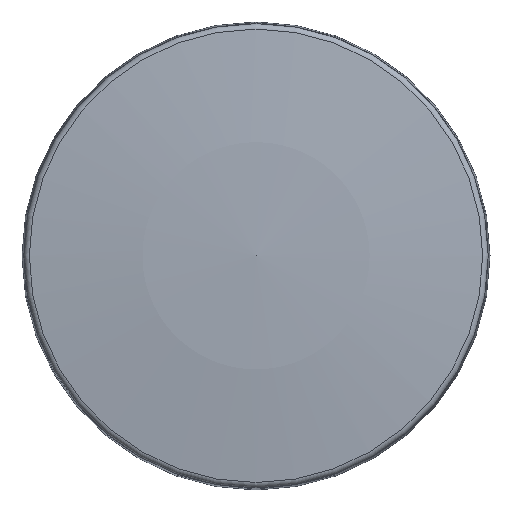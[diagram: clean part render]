
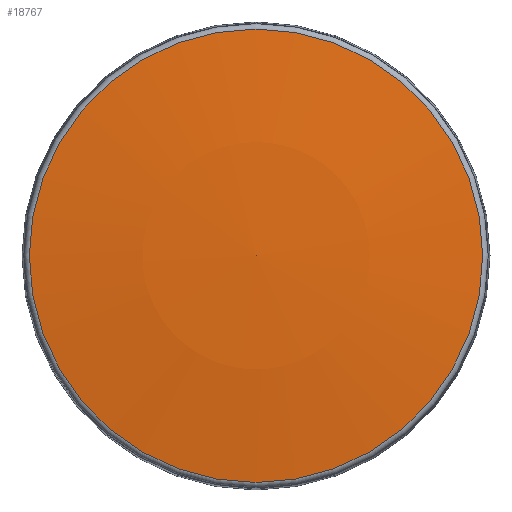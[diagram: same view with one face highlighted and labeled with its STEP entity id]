
A CAD part, top view. The second image highlights one B-rep face of the part: STEP entity #18767.
In plain terms, the highlighted spherical face has radius 60 mm.
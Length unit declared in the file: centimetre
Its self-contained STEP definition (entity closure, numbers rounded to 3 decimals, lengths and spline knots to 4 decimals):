
#12=SPHERICAL_SURFACE($,#19825,6.);
#1126=FACE_OUTER_BOUND($,#2102,.T.);
#2102=EDGE_LOOP($,(#12241));
#6566=CIRCLE($,#19826,0.7277);
#7197=VERTEX_POINT($,#28405);
#9145=EDGE_CURVE($,#7197,#7197,#6566,.T.);
#12241=ORIENTED_EDGE($,*,*,#9145,.T.);
#18767=ADVANCED_FACE($,(#1126),#12,.T.);
#19825=AXIS2_PLACEMENT_3D($,#28404,#21572,#21573);
#19826=AXIS2_PLACEMENT_3D($,#28406,#21574,#21575);
#21572=DIRECTION('center_axis',(0.,0.,
-1.));
#21573=DIRECTION('ref_axis',(1.,0.,0.));
#21574=DIRECTION('center_axis',(0.,0.,
1.));
#21575=DIRECTION('ref_axis',(0.,1.,0.));
#28404=CARTESIAN_POINT('Origin',(0.,0.,
-5.149));
#28405=CARTESIAN_POINT('',(0.,-0.7277,0.8067));
#28406=CARTESIAN_POINT('Origin',(0.,0.,
0.8067));
